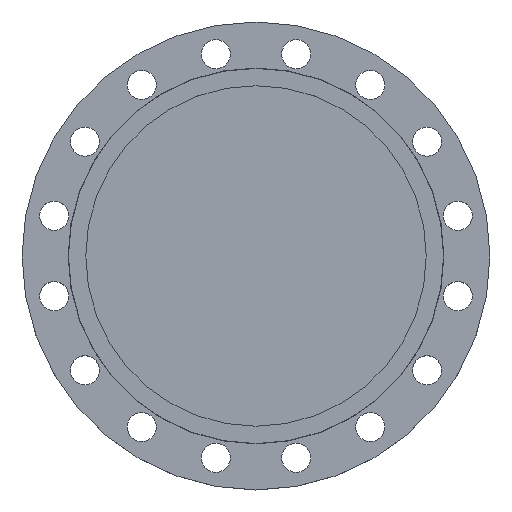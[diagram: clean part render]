
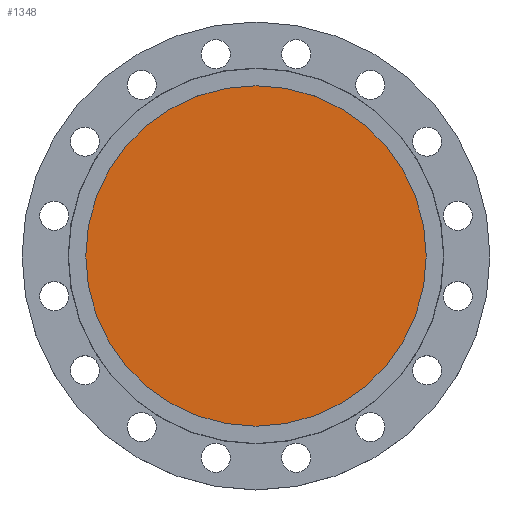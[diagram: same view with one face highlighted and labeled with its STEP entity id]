
A CAD part, top view. The second image highlights one B-rep face of the part: STEP entity #1348.
In plain terms, the highlighted planar face has unit normal (0, 0, 1).
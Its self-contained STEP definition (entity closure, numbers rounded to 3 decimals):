
#196 = EDGE_CURVE ( 'NONE', #1395, #1421, #618, .T. ) ;
#262 = CARTESIAN_POINT ( 'NONE',  ( -211., 0., -5. ) ) ;
#291 = CARTESIAN_POINT ( 'NONE',  ( 211., 0., -5. ) ) ;
#382 = DIRECTION ( 'NONE',  ( 1., 0., 0. ) ) ;
#383 = DIRECTION ( 'NONE',  ( 0., 0., 1. ) ) ;
#384 = CARTESIAN_POINT ( 'NONE',  ( 211., 0., -5. ) ) ;
#385 = PLANE ( 'NONE',  #814 ) ;
#386 = FACE_OUTER_BOUND ( 'NONE', #1570, .T. ) ;
#585 = AXIS2_PLACEMENT_3D ( 'NONE', #652, #649, #647 ) ;
#618 = CIRCLE ( 'NONE', #619, 211. ) ;
#619 = AXIS2_PLACEMENT_3D ( 'NONE', #971, #969, #968 ) ;
#647 = DIRECTION ( 'NONE',  ( -1., 0., 0. ) ) ;
#649 = DIRECTION ( 'NONE',  ( 0., 0., -1. ) ) ;
#652 = CARTESIAN_POINT ( 'NONE',  ( 0., 0., -5. ) ) ;
#814 = AXIS2_PLACEMENT_3D ( 'NONE', #384, #383, #382 ) ;
#968 = DIRECTION ( 'NONE',  ( -1., 0., 0. ) ) ;
#969 = DIRECTION ( 'NONE',  ( 0., 0., -1. ) ) ;
#971 = CARTESIAN_POINT ( 'NONE',  ( 0., 0., -5. ) ) ;
#1141 = EDGE_CURVE ( 'NONE', #1421, #1395, #1213, .T. ) ;
#1213 = CIRCLE ( 'NONE', #585, 211. ) ;
#1288 = ORIENTED_EDGE ( 'NONE', *, *, #196, .F. ) ;
#1321 = ORIENTED_EDGE ( 'NONE', *, *, #1141, .F. ) ;
#1348 = ADVANCED_FACE ( 'NONE', ( #386 ), #385, .T. ) ;
#1395 = VERTEX_POINT ( 'NONE', #291 ) ;
#1421 = VERTEX_POINT ( 'NONE', #262 ) ;
#1570 = EDGE_LOOP ( 'NONE', ( #1321, #1288 ) ) ;
